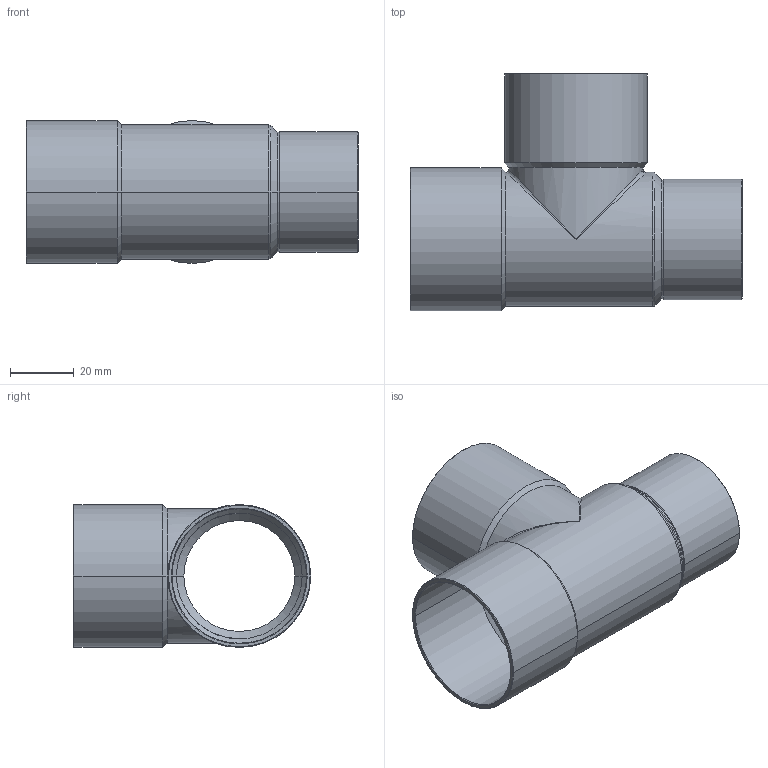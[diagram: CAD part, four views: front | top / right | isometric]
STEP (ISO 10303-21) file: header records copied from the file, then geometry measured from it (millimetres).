
FILE_DESCRIPTION((''),'2;1');
FILE_NAME('G:\Technics\CAD\Bauteile\15130\15130424235.stp','2005-11-03T13:43:11',('boden'),(''),'Autodesk Inventor 8','Autodesk Inventor 8','');
FILE_SCHEMA(('AUTOMOTIVE_DESIGN { 1 0 10303 214 1 1 1 1 }'));
Length unit declared in the file: millimetre
Products named in the file (1): 15130424235
Bounding box: 104 x 74.38 x 44.75 mm (x, y, z)
Volume: 22014.1 mm3; surface area: 34435.6 mm2
Topology: 1 solids, 1 shells, 61 faces, 142 edges, 74 vertices
Faces by surface type: cone 28, cylinder 24, bspline 4, plane 3, torus 2
Entity records: 2139 total; most frequent: CARTESIAN_POINT 754, DIRECTION 314, ORIENTED_EDGE 268, EDGE_CURVE 134, AXIS2_PLACEMENT_3D 130, VERTEX_POINT 74, CIRCLE 64, EDGE_LOOP 64
